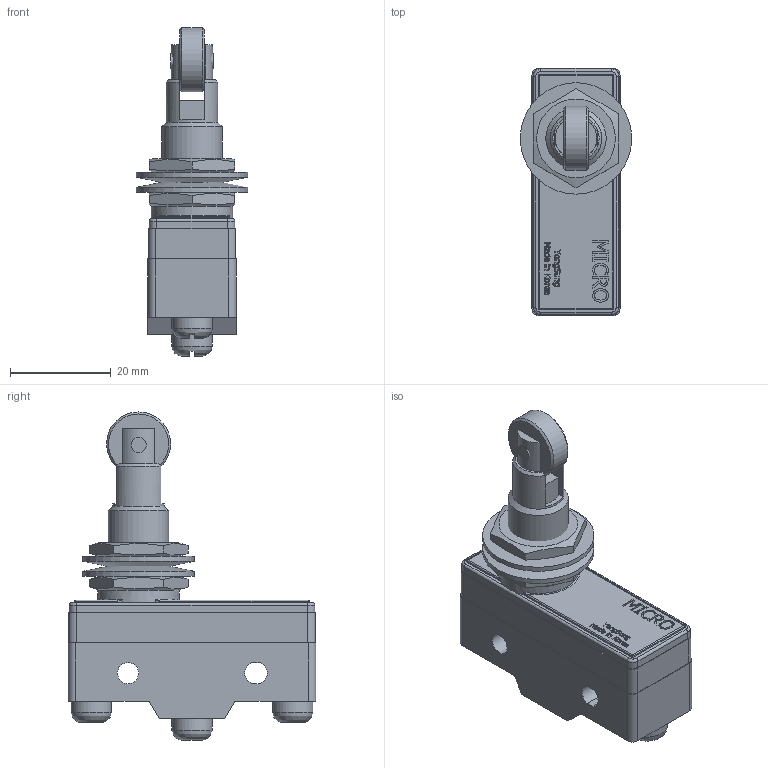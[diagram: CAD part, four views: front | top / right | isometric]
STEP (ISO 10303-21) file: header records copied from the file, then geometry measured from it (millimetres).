
FILE_DESCRIPTION(/* description */ (''),/* implementation_level */ '2;1');
FILE_NAME(/* name */ 'E:\Inventor 2016\제품 외형도\(\X2\C644B8CC\X0\) 리미트 스위치\직류용 마이크로 스위치 (Z형)\YSRP3610GW-B.stp',/* time_stamp */ '2019-04-09T10:04:46+09:00',/* author */ ('Kim'),/* organization */ (''),/* preprocessor_version */ 'ST-DEVELOPER v16.1',/* originating_system */ 'Autodesk Inventor 2016',/* authorisation */ '');
FILE_SCHEMA (('AUTOMOTIVE_DESIGN { 1 0 10303 214 3 1 1 }'));
Length unit declared in the file: millimetre
Products named in the file (1): YSRP3610GW-B
Bounding box: 22.13 x 49.2 x 65.15 mm (x, y, z)
Volume: 23962.8 mm3; surface area: 12509.6 mm2
Topology: 10 solids, 10 shells, 697 faces, 1860 edges, 1233 vertices
Faces by surface type: plane 378, bspline 260, cylinder 41, cone 11, torus 7
Full cylindrical faces by diameter (mm): 2.3 x2, 3 x2, 4.2 x1, 8 x3, 8.2 x1, 8.3 x1, 10.2 x2, 12 x1, 12.7 x1, 16.2 x1, 22.131 x2
Entity records: 23595 total; most frequent: CARTESIAN_POINT 7662, ORIENTED_EDGE 3650, DIRECTION 2239, EDGE_CURVE 1825, VERTEX_POINT 1225, LINE 1109, VECTOR 1109, EDGE_LOOP 782
